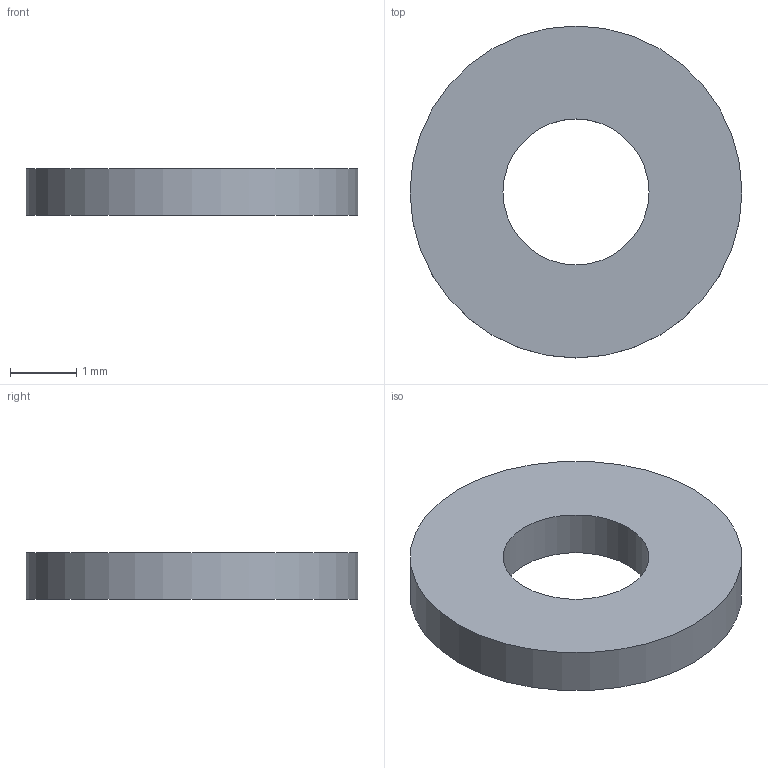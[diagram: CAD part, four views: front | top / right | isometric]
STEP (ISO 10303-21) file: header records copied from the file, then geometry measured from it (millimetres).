
FILE_DESCRIPTION(('Open CASCADE Model'),'2;1');
FILE_NAME('Speaker_spacer_07_1','2026-09-21T22:33:41',('Author'),( 'Open CASCADE'),'Open CASCADE STEP processor 7.9','build123d', 'Unknown');
FILE_SCHEMA(('AUTOMOTIVE_DESIGN { 1 0 10303 214 1 1 1 1 }'));
Length unit declared in the file: millimetre
Products named in the file (2): Speaker_spacer_07_1
Assembly tree (1 placements, depth 2):
  Speaker_spacer_07_1
    Speaker_spacer_07_1
Bounding box: 5 x 5 x 0.7 mm (x, y, z)
Volume: 11.1 mm3; surface area: 47.5 mm2
Topology: 1 solids, 1 shells, 4 faces, 6 edges, 4 vertices
Faces by surface type: cylinder 2, plane 2
Full cylindrical faces by diameter (mm): 2.2 x1, 5 x1
Entity records: 150 total; most frequent: DIRECTION 22, CARTESIAN_POINT 16, ORIENTED_EDGE 12, AXIS2_PLACEMENT_3D 10, FACE_BOUND 6, EDGE_LOOP 6, EDGE_CURVE 6, SHAPE_DEFINITION_REPRESENTATION 4
